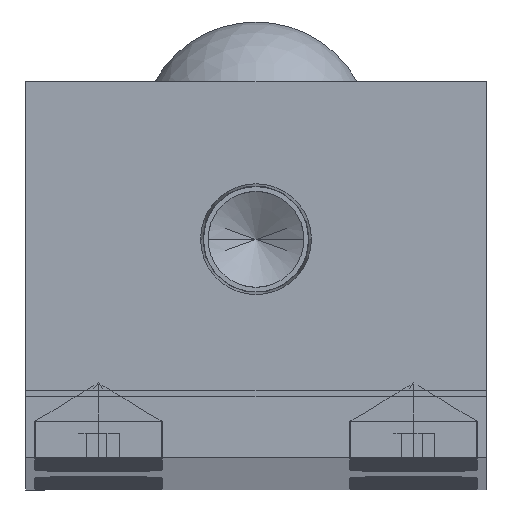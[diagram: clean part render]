
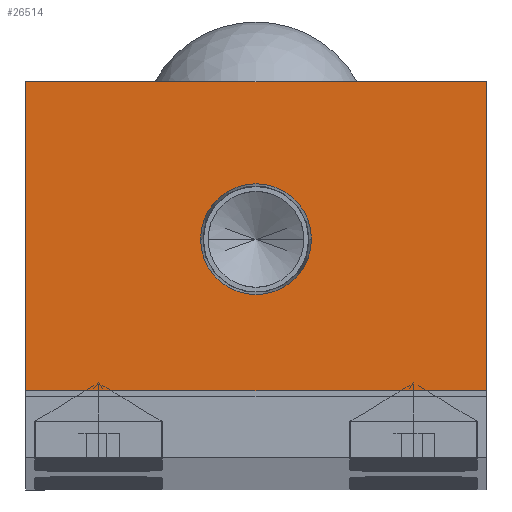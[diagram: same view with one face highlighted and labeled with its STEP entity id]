
A CAD part, top view. The second image highlights one B-rep face of the part: STEP entity #26514.
In plain terms, the highlighted planar face has unit normal (0, 0, 1).
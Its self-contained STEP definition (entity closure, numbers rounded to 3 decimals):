
#379 = CARTESIAN_POINT ( 'NONE',  ( -19., 5.5, 0. ) ) ;
#412 = VECTOR ( 'NONE', #13613, 1000. ) ;
#1648 = CIRCLE ( 'NONE', #15560, 4.574 ) ;
#1773 = ORIENTED_EDGE ( 'NONE', *, *, #22876, .T. ) ;
#2508 = CARTESIAN_POINT ( 'NONE',  ( 19., 31., 0. ) ) ;
#4169 = FACE_OUTER_BOUND ( 'NONE', #27915, .T. ) ;
#4583 = CARTESIAN_POINT ( 'NONE',  ( 19., 5.5, 0. ) ) ;
#4677 = VERTEX_POINT ( 'NONE', #17395 ) ;
#7352 = DIRECTION ( 'NONE',  ( 1., 0., 0. ) ) ;
#8262 = CARTESIAN_POINT ( 'NONE',  ( 0., 18., 0. ) ) ;
#8399 = CARTESIAN_POINT ( 'NONE',  ( -19., 31., 0. ) ) ;
#8625 = VECTOR ( 'NONE', #19789, 1000. ) ;
#9769 = EDGE_CURVE ( 'NONE', #19800, #16268, #19880, .T. ) ;
#10201 = EDGE_CURVE ( 'NONE', #30412, #29550, #20473, .T. ) ;
#10834 = DIRECTION ( 'NONE',  ( 1., 0., 0. ) ) ;
#12061 = EDGE_CURVE ( 'NONE', #19752, #4677, #1648, .T. ) ;
#13613 = DIRECTION ( 'NONE',  ( 1., 0., 0. ) ) ;
#14302 = ORIENTED_EDGE ( 'NONE', *, *, #9769, .T. ) ;
#14316 = CARTESIAN_POINT ( 'NONE',  ( 0., 18., 0. ) ) ;
#15560 = AXIS2_PLACEMENT_3D ( 'NONE', #14316, #32153, #16907 ) ;
#16268 = VERTEX_POINT ( 'NONE', #28344 ) ;
#16783 = EDGE_CURVE ( 'NONE', #4677, #19752, #28074, .T. ) ;
#16817 = EDGE_LOOP ( 'NONE', ( #20264, #26653 ) ) ;
#16907 = DIRECTION ( 'NONE',  ( 1., 0., 0. ) ) ;
#17395 = CARTESIAN_POINT ( 'NONE',  ( 4.574, 18., 0. ) ) ;
#17458 = PLANE ( 'NONE',  #24751 ) ;
#17701 = FACE_BOUND ( 'NONE', #16817, .T. ) ;
#18295 = CARTESIAN_POINT ( 'NONE',  ( 19., 31., 0. ) ) ;
#18677 = AXIS2_PLACEMENT_3D ( 'NONE', #8262, #26088, #10834 ) ;
#19752 = VERTEX_POINT ( 'NONE', #30529 ) ;
#19789 = DIRECTION ( 'NONE',  ( 0., 1., 0. ) ) ;
#19800 = VERTEX_POINT ( 'NONE', #379 ) ;
#19880 = LINE ( 'NONE', #28883, #412 ) ;
#19887 = DIRECTION ( 'NONE',  ( 0., 0., 1. ) ) ;
#20010 = CARTESIAN_POINT ( 'NONE',  ( 0., 0., 0. ) ) ;
#20264 = ORIENTED_EDGE ( 'NONE', *, *, #16783, .F. ) ;
#20473 = LINE ( 'NONE', #18295, #27268 ) ;
#21878 = EDGE_CURVE ( 'NONE', #16268, #30412, #28952, .T. ) ;
#22181 = CARTESIAN_POINT ( 'NONE',  ( -19., 31., 0. ) ) ;
#22876 = EDGE_CURVE ( 'NONE', #29550, #19800, #31660, .T. ) ;
#23412 = DIRECTION ( 'NONE',  ( -1., 0., 0. ) ) ;
#23503 = ORIENTED_EDGE ( 'NONE', *, *, #21878, .T. ) ;
#24751 = AXIS2_PLACEMENT_3D ( 'NONE', #20010, #19887, #7352 ) ;
#24909 = VECTOR ( 'NONE', #26213, 1000. ) ;
#26088 = DIRECTION ( 'NONE',  ( 0., 0., 1. ) ) ;
#26213 = DIRECTION ( 'NONE',  ( 0., -1., 0. ) ) ;
#26514 = ADVANCED_FACE ( 'NONE', ( #17701, #4169 ), #17458, .T. ) ;
#26653 = ORIENTED_EDGE ( 'NONE', *, *, #12061, .F. ) ;
#27268 = VECTOR ( 'NONE', #23412, 1000. ) ;
#27915 = EDGE_LOOP ( 'NONE', ( #14302, #23503, #28945, #1773 ) ) ;
#28074 = CIRCLE ( 'NONE', #18677, 4.574 ) ;
#28344 = CARTESIAN_POINT ( 'NONE',  ( 19., 5.5, 0. ) ) ;
#28883 = CARTESIAN_POINT ( 'NONE',  ( 19., 5.5, 0. ) ) ;
#28945 = ORIENTED_EDGE ( 'NONE', *, *, #10201, .T. ) ;
#28952 = LINE ( 'NONE', #4583, #8625 ) ;
#29550 = VERTEX_POINT ( 'NONE', #22181 ) ;
#30412 = VERTEX_POINT ( 'NONE', #2508 ) ;
#30529 = CARTESIAN_POINT ( 'NONE',  ( -4.574, 18., 0. ) ) ;
#31660 = LINE ( 'NONE', #8399, #24909 ) ;
#32153 = DIRECTION ( 'NONE',  ( 0., 0., 1. ) ) ;
